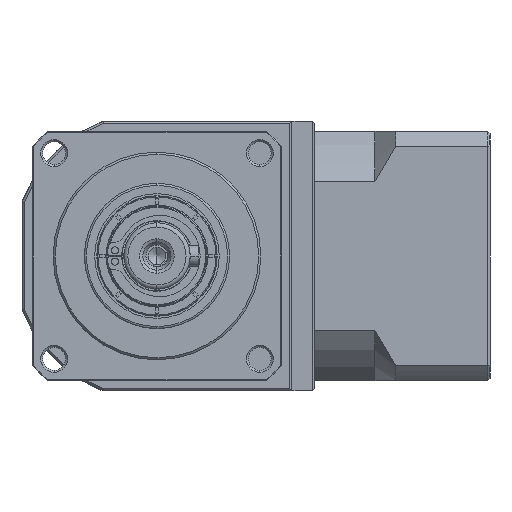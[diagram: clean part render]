
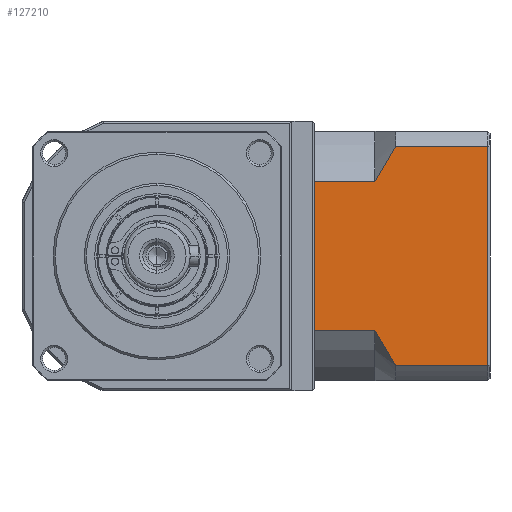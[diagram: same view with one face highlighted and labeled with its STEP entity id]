
A CAD part, left-side view. The second image highlights one B-rep face of the part: STEP entity #127210.
In plain terms, the highlighted planar face has unit normal (-1, 0, 0).
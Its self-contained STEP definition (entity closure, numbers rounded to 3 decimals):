
#3768 = B_SPLINE_CURVE_WITH_KNOTS ( 'NONE', 3,
 ( #106880, #106333, #131702, #57552, #144229, #70006 ),
 .UNSPECIFIED., .F., .F.,
 ( 4, 2, 4 ),
 ( 0.1, 0.104, 0.109 ),
 .UNSPECIFIED. ) ;
#4900 = CARTESIAN_POINT ( 'NONE',  ( 13.597, -77.033, -97.331 ) ) ;
#12296 = VERTEX_POINT ( 'NONE', #68785 ) ;
#13811 = CARTESIAN_POINT ( 'NONE',  ( 13.597, -58.433, -152.428 ) ) ;
#14336 = VERTEX_POINT ( 'NONE', #92252 ) ;
#14970 = ORIENTED_EDGE ( 'NONE', *, *, #50165, .T. ) ;
#19771 = CARTESIAN_POINT ( 'NONE',  ( 13.597, -72.933, -140.456 ) ) ;
#22854 = EDGE_CURVE ( 'NONE', #78138, #43510, #97753, .T. ) ;
#23723 = LINE ( 'NONE', #150428, #147670 ) ;
#25155 = VECTOR ( 'NONE', #32197, 1000. ) ;
#26422 = DIRECTION ( 'NONE',  ( 0., -1., 0. ) ) ;
#27851 = VERTEX_POINT ( 'NONE', #75998 ) ;
#29033 = DIRECTION ( 'NONE',  ( 1., 0., 0. ) ) ;
#30669 = ORIENTED_EDGE ( 'NONE', *, *, #42128, .T. ) ;
#31854 = VECTOR ( 'NONE', #87941, 1000. ) ;
#32197 = DIRECTION ( 'NONE',  ( 0., 1., 0. ) ) ;
#34093 = EDGE_CURVE ( 'NONE', #114747, #12296, #111495, .T. ) ;
#34394 = ORIENTED_EDGE ( 'NONE', *, *, #22854, .T. ) ;
#42128 = EDGE_CURVE ( 'NONE', #101473, #12296, #3768, .T. ) ;
#43510 = VERTEX_POINT ( 'NONE', #130637 ) ;
#43761 = EDGE_CURVE ( 'NONE', #114747, #27851, #69425, .T. ) ;
#44144 = ORIENTED_EDGE ( 'NONE', *, *, #65285, .F. ) ;
#45533 = FACE_OUTER_BOUND ( 'NONE', #59368, .T. ) ;
#49351 = CARTESIAN_POINT ( 'NONE',  ( 13.597, -100.133, -152.428 ) ) ;
#50165 = EDGE_CURVE ( 'NONE', #89796, #14336, #52237, .T. ) ;
#52237 = B_SPLINE_CURVE_WITH_KNOTS ( 'NONE', 3,
 ( #153289, #4900, #128866, #54646, #141304, #67104 ),
 .UNSPECIFIED., .F., .F.,
 ( 4, 2, 4 ),
 ( 0.052, 0.057, 0.062 ),
 .UNSPECIFIED. ) ;
#54646 = CARTESIAN_POINT ( 'NONE',  ( 13.597, -74.484, -101.517 ) ) ;
#57552 = CARTESIAN_POINT ( 'NONE',  ( 13.597, -76.158, -146.143 ) ) ;
#59368 = EDGE_LOOP ( 'NONE', ( #105867, #115692, #138922, #14970, #96437, #34394, #44144, #30669 ) ) ;
#61795 = DIRECTION ( 'NONE',  ( 0., 0., 1. ) ) ;
#65285 = EDGE_CURVE ( 'NONE', #101473, #43510, #156949, .T. ) ;
#67104 = CARTESIAN_POINT ( 'NONE',  ( 13.597, -72.933, -104.401 ) ) ;
#68785 = CARTESIAN_POINT ( 'NONE',  ( 13.597, -77.933, -148.886 ) ) ;
#69425 = LINE ( 'NONE', #49351, #98496 ) ;
#70006 = CARTESIAN_POINT ( 'NONE',  ( 13.597, -77.933, -148.886 ) ) ;
#75998 = CARTESIAN_POINT ( 'NONE',  ( 13.597, -100.133, -95.971 ) ) ;
#76146 = EDGE_CURVE ( 'NONE', #78138, #14336, #76315, .T. ) ;
#76315 = LINE ( 'NONE', #140279, #138324 ) ;
#78138 = VERTEX_POINT ( 'NONE', #142357 ) ;
#78444 = VECTOR ( 'NONE', #86431, 1000. ) ;
#78561 = DIRECTION ( 'NONE',  ( 0., -1., 0. ) ) ;
#83186 = CARTESIAN_POINT ( 'NONE',  ( 13.597, -100.133, -148.886 ) ) ;
#86431 = DIRECTION ( 'NONE',  ( 0., 1., 0. ) ) ;
#87941 = DIRECTION ( 'NONE',  ( 0., 0., -1. ) ) ;
#89796 = VERTEX_POINT ( 'NONE', #142283 ) ;
#92252 = CARTESIAN_POINT ( 'NONE',  ( 13.597, -72.933, -104.401 ) ) ;
#96437 = ORIENTED_EDGE ( 'NONE', *, *, #76146, .F. ) ;
#97753 = LINE ( 'NONE', #13811, #31854 ) ;
#98496 = VECTOR ( 'NONE', #61795, 1000. ) ;
#101473 = VERTEX_POINT ( 'NONE', #146404 ) ;
#103183 = CARTESIAN_POINT ( 'NONE',  ( 13.597, -100.633, -152.428 ) ) ;
#105867 = ORIENTED_EDGE ( 'NONE', *, *, #34093, .F. ) ;
#106333 = CARTESIAN_POINT ( 'NONE',  ( 13.597, -73.683, -141.913 ) ) ;
#106880 = CARTESIAN_POINT ( 'NONE',  ( 13.597, -72.933, -140.456 ) ) ;
#111495 = LINE ( 'NONE', #135684, #78444 ) ;
#114747 = VERTEX_POINT ( 'NONE', #83186 ) ;
#115692 = ORIENTED_EDGE ( 'NONE', *, *, #43761, .T. ) ;
#115714 = DIRECTION ( 'NONE',  ( 0., 1., 0. ) ) ;
#127210 = ADVANCED_FACE ( 'NONE', ( #45533 ), #139996, .F. ) ;
#128479 = EDGE_CURVE ( 'NONE', #89796, #27851, #23723, .T. ) ;
#128866 = CARTESIAN_POINT ( 'NONE',  ( 13.597, -76.16, -98.709 ) ) ;
#130637 = CARTESIAN_POINT ( 'NONE',  ( 13.597, -58.433, -140.456 ) ) ;
#131702 = CARTESIAN_POINT ( 'NONE',  ( 13.597, -74.484, -143.338 ) ) ;
#135684 = CARTESIAN_POINT ( 'NONE',  ( 13.597, -72.933, -148.886 ) ) ;
#138324 = VECTOR ( 'NONE', #78561, 1000. ) ;
#138922 = ORIENTED_EDGE ( 'NONE', *, *, #128479, .F. ) ;
#139996 = PLANE ( 'NONE',  #149245 ) ;
#140279 = CARTESIAN_POINT ( 'NONE',  ( 13.597, -72.933, -104.401 ) ) ;
#141304 = CARTESIAN_POINT ( 'NONE',  ( 13.597, -73.681, -102.949 ) ) ;
#142283 = CARTESIAN_POINT ( 'NONE',  ( 13.597, -77.933, -95.971 ) ) ;
#142357 = CARTESIAN_POINT ( 'NONE',  ( 13.597, -58.433, -104.401 ) ) ;
#144229 = CARTESIAN_POINT ( 'NONE',  ( 13.597, -77.032, -147.523 ) ) ;
#146404 = CARTESIAN_POINT ( 'NONE',  ( 13.597, -72.933, -140.456 ) ) ;
#147670 = VECTOR ( 'NONE', #26422, 1000. ) ;
#149245 = AXIS2_PLACEMENT_3D ( 'NONE', #103183, #29033, #115714 ) ;
#150428 = CARTESIAN_POINT ( 'NONE',  ( 13.597, -72.933, -95.971 ) ) ;
#153289 = CARTESIAN_POINT ( 'NONE',  ( 13.597, -77.933, -95.971 ) ) ;
#156949 = LINE ( 'NONE', #19771, #25155 ) ;
